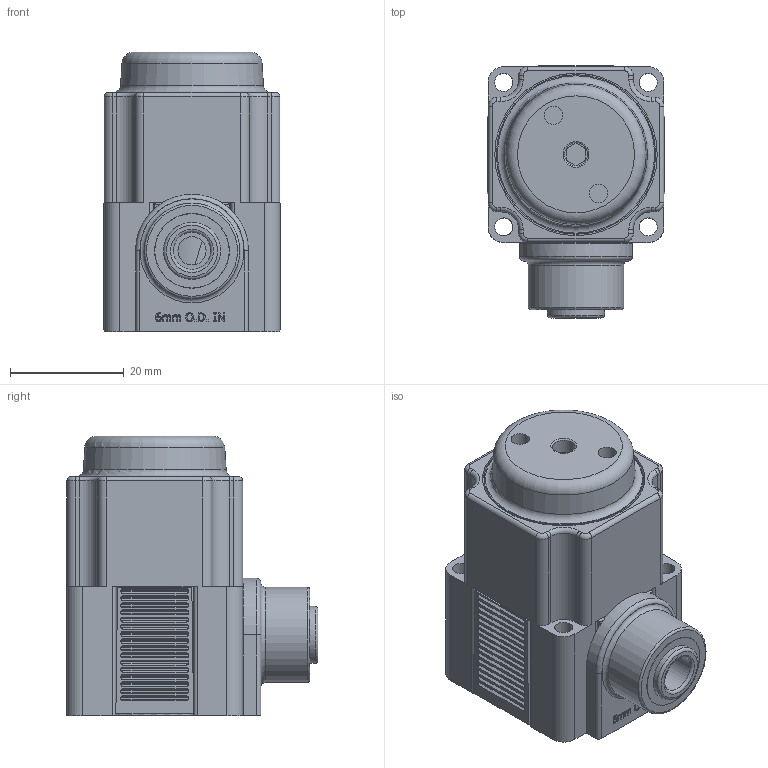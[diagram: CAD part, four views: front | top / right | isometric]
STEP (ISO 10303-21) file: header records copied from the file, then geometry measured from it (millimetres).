
FILE_DESCRIPTION(/* description */ (''),/* implementation_level */ '2;1');
FILE_NAME(/* name */ 'K:\Normteile INVENTOR\Air-Logic\Regulators\PR7000\PR 7___ 8 Push-In Fitting for 6mm O.D. Tube In.igs.ipt.stp',/* time_stamp */ '2020-05-27T10:54:17+02:00',/* author */ ('Paul'),/* organization */ (''),/* preprocessor_version */ 'ST-DEVELOPER v18',/* originating_system */ 'Autodesk Inventor 2020',/* authorisation */ '');
FILE_SCHEMA (('AUTOMOTIVE_DESIGN { 1 0 10303 214 3 1 1 }'));
Length unit declared in the file: inch
Products named in the file (1): PR 7___ 8 Push-In Fitting for 6mm O.D. Tube In.igs
Bounding box: 31.19 x 44.31 x 49.15 mm (x, y, z)
Volume: 42059.3 mm3; surface area: 14323.3 mm2
Topology: 1 solids, 1 shells, 726 faces, 1892 edges, 1239 vertices
Faces by surface type: plane 366, cylinder 253, bspline 81, torus 24, cone 2
Full cylindrical faces by diameter (mm): 3.175 x4, 3.226 x2, 4.013 x1, 4.953 x1, 6.553 x1, 9.169 x1, 9.398 x1, 10.033 x1, 12.903 x1, 13.081 x1, 13.157 x1, 16.764 x1, 26.264 x1, 28.047 x1, 28.575 x1
Entity records: 24975 total; most frequent: CARTESIAN_POINT 6260, ORIENTED_EDGE 3784, DIRECTION 3727, EDGE_CURVE 1892, AXIS2_PLACEMENT_3D 1409, VERTEX_POINT 1239, LINE 909, VECTOR 909
